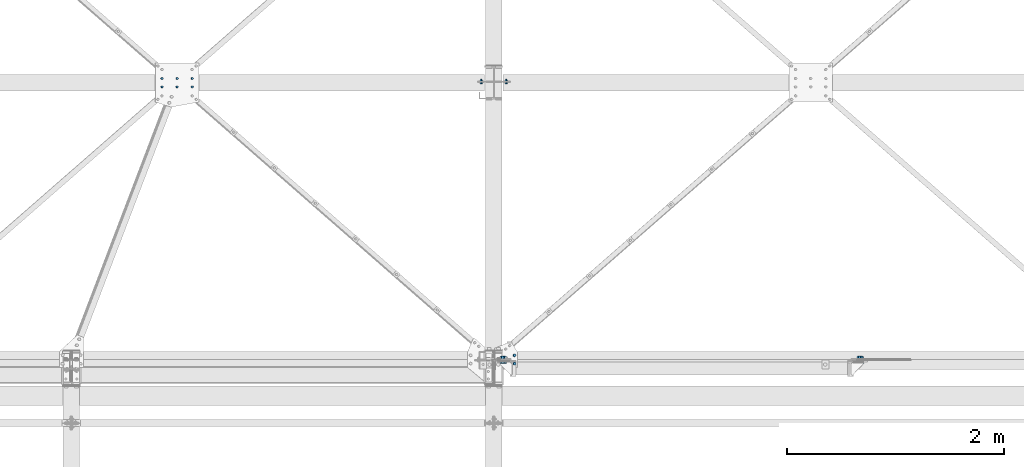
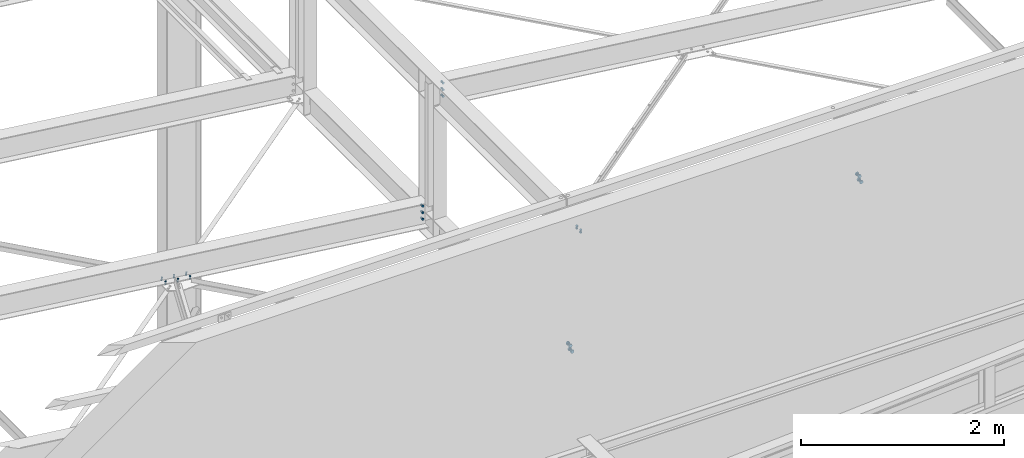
# One storey, part 104 of 3134: 6 mechanical fasteners, 4 elements without a shape of their own.
"""IFC2X3 building model written with IfcOpenShell, lengths in millimetres."""

from ifc_helpers import new_model, si_unit, frame, origin_with_axes, place, context, subcontext, project, spatial, faceted_brep, source, transform, mapped, material, type_object, element, aggregate, save


model = new_model("IFC2X3")

# Units and contexts
model_context = context("Model", 3, precision=1e-05, world=origin_with_axes())
body_context = subcontext(model_context, "Body", "Model", "MODEL_VIEW")
ifc_project = project(units=[si_unit("LENGTHUNIT", "METRE", prefix="MILLI"), si_unit("AREAUNIT", "SQUARE_METRE"), si_unit("VOLUMEUNIT", "CUBIC_METRE"), si_unit("MASSUNIT", "GRAM", prefix="KILO"), si_unit("TIMEUNIT", "SECOND"), si_unit("PLANEANGLEUNIT", "RADIAN"), si_unit("SOLIDANGLEUNIT", "STERADIAN"), si_unit("THERMODYNAMICTEMPERATUREUNIT", "DEGREE_CELSIUS"), si_unit("LUMINOUSINTENSITYUNIT", "LUMEN")], contexts=[model_context])

# Site, building, storey
site_placement = place(None, origin_with_axes())
site = spatial("IfcSite", under=ifc_project, at=site_placement, CompositionType="ELEMENT")
building_placement = place(site_placement, origin_with_axes())
building = spatial("IfcBuilding", under=site, at=building_placement, Name="Undefined", CompositionType="ELEMENT")
storey_placement = place(building_placement, origin_with_axes())
storey = spatial("IfcBuildingStorey", under=building, at=storey_placement, Name="Undefined", CompositionType="ELEMENT", Elevation=0.0)

# Assembly, mechanical fastener
assembly_1_placement = place(storey_placement, origin_with_axes())
assembly_1 = element("IfcElementAssembly", 1, at=assembly_1_placement, inside=storey, Name="300", AssemblyPlace="NOTDEFINED", PredefinedType="RIGID_FRAME")
ifc_material = material(Name="8.8")
mechanical_fastener_type = type_object("IfcMechanicalFastenerType", Name="Bolt assembly")
shared_shape_1 = source(origin_with_axes(), body_context, "Body", "Brep", [
    faceted_brep([(13.856406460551, -13.0499999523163, 0.0), (6.92820323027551, -13.0499999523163, 12.0), (-6.92820323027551, -13.0499999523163, 12.0), (-13.856406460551, -13.0499999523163, 1.69692038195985e-15), (-6.92820323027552, -13.0499999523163, -12.0), (6.9282032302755, -13.0499999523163, -12.0), (6.9282032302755, -3.04999995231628, -12.0), (-6.92820323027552, -3.04999995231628, -12.0), (-13.856406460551, -3.04999995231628, 1.69692038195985e-15), (-6.92820323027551, -3.04999995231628, 12.0), (6.92820323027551, -3.04999995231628, 12.0), (13.856406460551, -3.04999995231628, 0.0), (8.0, -3.04999995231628, 0.0), (6.92820323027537, -3.04999995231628, 4.00000000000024), (3.99999999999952, -3.04999995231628, 6.92820323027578), (-8.29068785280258e-13, -3.04999995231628, 8.0), (-4.00000000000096, -3.04999995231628, 6.92820323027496), (-6.9282032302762, -3.04999995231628, 3.99999999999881), (-8.0, -3.04999995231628, -1.65813757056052e-12), (-6.92820323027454, -3.04999995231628, -4.00000000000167), (-3.99999999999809, -3.04999995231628, -6.92820323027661), (2.47832457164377e-12, -3.04999995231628, -8.0), (4.00000000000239, -3.04999995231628, -6.92820323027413), (6.92820323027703, -3.04999995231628, -3.99999999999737), (6.92820323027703, 31.9500000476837, -3.99999999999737), (4.00000000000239, 31.9500000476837, -6.92820323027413), (2.47832457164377e-12, 31.9500000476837, -8.0), (-3.99999999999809, 31.9500000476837, -6.92820323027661), (-6.92820323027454, 31.9500000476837, -4.00000000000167), (-8.0, 31.9500000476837, -1.65813757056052e-12), (-6.9282032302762, 31.9500000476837, 3.99999999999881), (-4.00000000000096, 31.9500000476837, 6.92820323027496), (-8.29068785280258e-13, 31.9500000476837, 8.0), (3.99999999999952, 31.9500000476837, 6.92820323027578), (6.92820323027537, 31.9500000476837, 4.00000000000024), (8.0, 31.9500000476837, 0.0), (13.856406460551, 13.0500000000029, 0.0), (6.92820323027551, 13.0500000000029, 12.0), (-6.92820323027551, 13.0500000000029, 12.0), (-13.856406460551, 13.0500000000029, 1.69692038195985e-15), (-6.92820323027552, 13.0500000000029, -12.0), (6.9282032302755, 13.0500000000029, -12.0), (6.9282032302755, 26.0500000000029, -12.0), (-6.92820323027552, 26.0500000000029, -12.0), (-13.856406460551, 26.0500000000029, 1.69692038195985e-15), (-6.92820323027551, 26.0500000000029, 12.0), (6.92820323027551, 26.0500000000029, 12.0), (13.856406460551, 26.0500000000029, 0.0)], [[[0, 1, 2, 3, 4, 5]], [[6, 7, 8, 9, 10, 11]], [[0, 11, 10, 1]], [[1, 10, 9, 2]], [[2, 9, 8, 3]], [[3, 8, 7, 4]], [[4, 7, 6, 5]], [[5, 6, 11, 0]], [[12, 13, 14, 15, 16, 17, 18, 19, 20, 21, 22, 23]], [[24, 25, 26, 27, 28, 29, 30, 31, 32, 33, 34, 35]], [[12, 35, 34, 13]], [[13, 34, 33, 14]], [[14, 33, 32, 15]], [[15, 32, 31, 16]], [[16, 31, 30, 17]], [[17, 30, 29, 18]], [[18, 29, 28, 19]], [[19, 28, 27, 20]], [[20, 27, 26, 21]], [[21, 26, 25, 22]], [[22, 25, 24, 23]], [[23, 24, 35, 12]], [[36, 37, 38, 39, 40, 41]], [[42, 43, 44, 45, 46, 47]], [[36, 47, 46, 37]], [[37, 46, 45, 38]], [[38, 45, 44, 39]], [[39, 44, 43, 40]], [[40, 43, 42, 41]], [[41, 42, 47, 36]]]),
    faceted_brep([(9.0, 2.95000000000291, 0.0), (7.79422863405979, 2.95000000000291, 4.50000000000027), (4.49999999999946, 2.95000000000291, 7.79422863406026), (-9.3270238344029e-13, 2.95000000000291, 9.0), (-4.50000000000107, 2.95000000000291, 7.79422863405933), (-7.79422863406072, 2.95000000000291, 4.49999999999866), (-9.0, 2.95000000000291, -1.86540476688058e-12), (-7.79422863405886, 2.95000000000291, -4.50000000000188), (-4.49999999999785, 2.95000000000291, -7.79422863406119), (2.78811514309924e-12, 2.95000000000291, -9.0), (4.50000000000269, 2.95000000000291, -7.7942286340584), (7.79422863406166, 2.95000000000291, -4.49999999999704), (7.79422863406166, 13.0500000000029, -4.49999999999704), (4.50000000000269, 13.0500000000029, -7.7942286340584), (2.78811514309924e-12, 13.0500000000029, -9.0), (-4.49999999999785, 13.0500000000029, -7.79422863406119), (-7.79422863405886, 13.0500000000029, -4.50000000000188), (-9.0, 13.0500000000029, -1.86540476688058e-12), (-7.79422863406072, 13.0500000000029, 4.49999999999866), (-4.50000000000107, 13.0500000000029, 7.79422863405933), (-9.3270238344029e-13, 13.0500000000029, 9.0), (4.49999999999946, 13.0500000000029, 7.79422863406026), (7.79422863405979, 13.0500000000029, 4.50000000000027), (9.0, 13.0500000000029, 0.0), (9.0, -2.94999995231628, 0.0), (7.79422863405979, -2.94999995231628, 4.50000000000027), (4.49999999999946, -2.94999995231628, 7.79422863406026), (-9.3270238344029e-13, -2.94999995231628, 9.0), (-4.50000000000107, -2.94999995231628, 7.79422863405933), (-7.79422863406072, -2.94999995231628, 4.49999999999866), (-9.0, -2.94999995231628, -1.86540476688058e-12), (-7.79422863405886, -2.94999995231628, -4.50000000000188), (-4.49999999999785, -2.94999995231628, -7.79422863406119), (2.78811514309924e-12, -2.94999995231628, -9.0), (4.50000000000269, -2.94999995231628, -7.7942286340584), (7.79422863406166, -2.94999995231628, -4.49999999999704), (7.79422863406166, 3.14999995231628, -4.49999999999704), (4.50000000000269, 3.14999995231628, -7.7942286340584), (2.78811514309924e-12, 3.14999995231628, -9.0), (-4.49999999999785, 3.14999995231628, -7.79422863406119), (-7.79422863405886, 3.14999995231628, -4.50000000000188), (-9.0, 3.14999995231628, -1.86540476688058e-12), (-7.79422863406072, 3.14999995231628, 4.49999999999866), (-4.50000000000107, 3.14999995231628, 7.79422863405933), (-9.3270238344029e-13, 3.14999995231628, 9.0), (4.49999999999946, 3.14999995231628, 7.79422863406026), (7.79422863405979, 3.14999995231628, 4.50000000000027), (9.0, 3.14999995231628, 0.0)], [[[0, 1, 2, 3, 4, 5, 6, 7, 8, 9, 10, 11]], [[12, 13, 14, 15, 16, 17, 18, 19, 20, 21, 22, 23]], [[0, 23, 22, 1]], [[1, 22, 21, 2]], [[2, 21, 20, 3]], [[3, 20, 19, 4]], [[4, 19, 18, 5]], [[5, 18, 17, 6]], [[6, 17, 16, 7]], [[7, 16, 15, 8]], [[8, 15, 14, 9]], [[9, 14, 13, 10]], [[10, 13, 12, 11]], [[11, 12, 23, 0]], [[24, 25, 26, 27, 28, 29, 30, 31, 32, 33, 34, 35]], [[36, 37, 38, 39, 40, 41, 42, 43, 44, 45, 46, 47]], [[24, 47, 46, 25]], [[25, 46, 45, 26]], [[26, 45, 44, 27]], [[27, 44, 43, 28]], [[28, 43, 42, 29]], [[29, 42, 41, 30]], [[30, 41, 40, 31]], [[31, 40, 39, 32]], [[32, 39, 38, 33]], [[33, 38, 37, 34]], [[34, 37, 36, 35]], [[35, 36, 47, 24]]]),
])
mechanical_fastener_1_placement = place(assembly_1_placement, frame((32640.0, 2550.0, 5735.35014950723), z_axis=(1.0, 0.0, 0.0), x_axis=(0.0, 0.0, -1.0)))
mechanical_fastener_1 = element("IfcMechanicalFastener", 2, at=mechanical_fastener_1_placement, type_object=mechanical_fastener_type, material=ifc_material, Name="Bolt assembly", NominalDiameter=16.0, NominalLength=35.0, context=body_context, shape_type="MappedRepresentation", body=[
    mapped(shared_shape_1, transform((0.0, 0.0, 0.0))),
    mapped(shared_shape_1, transform((80.0, 0.0, 0.0))),
    mapped(shared_shape_1, transform((160.0, 0.0, 0.0))),
])
aggregate(assembly_1, [mechanical_fastener_1])

# Assembly, mechanical fasteners
assembly_2_placement = place(storey_placement, origin_with_axes())
assembly_2 = element("IfcElementAssembly", 3, at=assembly_2_placement, inside=storey, Name="300", AssemblyPlace="NOTDEFINED", PredefinedType="RIGID_FRAME")
mechanical_fastener_2_placement = place(assembly_2_placement, frame((32410.0, 2550.0, 4337.44269270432), z_axis=(1.0, 0.0, 0.0), x_axis=(0.0, 0.0, -1.0)))
mechanical_fastener_2 = element("IfcMechanicalFastener", 4, at=mechanical_fastener_2_placement, type_object=mechanical_fastener_type, material=ifc_material, Name="Bolt assembly", NominalDiameter=16.0, NominalLength=35.0, context=body_context, shape_type="MappedRepresentation", body=[
    mapped(shared_shape_1, transform((0.0, 0.0, 0.0))),
    mapped(shared_shape_1, transform((80.0, 0.0, 0.0))),
    mapped(shared_shape_1, transform((160.0, 0.0, 0.0))),
])
shared_shape_2 = source(origin_with_axes(), body_context, "Body", "Brep", [
    faceted_brep([(10.9696551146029, -17.1999998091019, 0.0), (5.48482755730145, -17.1999998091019, 9.5), (-5.48482755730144, -17.1999998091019, 9.5), (-10.9696551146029, -17.1999998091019, 1.34339530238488e-15), (-5.48482755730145, -17.1999998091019, -9.5), (5.48482755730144, -17.1999998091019, -9.50000000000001), (5.48482755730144, -9.19999978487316, -9.50000000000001), (-5.48482755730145, -9.19999978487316, -9.5), (-10.9696551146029, -9.19999978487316, 1.34339530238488e-15), (-5.48482755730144, -9.19999978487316, 9.5), (5.48482755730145, -9.19999978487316, 9.5), (10.9696551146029, -9.19999978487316, 0.0), (6.0, -9.19999978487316, 0.0), (5.19615242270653, -9.19999978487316, 3.00000000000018), (2.99999999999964, -9.19999978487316, 5.19615242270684), (-6.21801588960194e-13, -9.19999978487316, 6.0), (-3.00000000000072, -9.19999978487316, 5.19615242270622), (-5.19615242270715, -9.19999978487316, 2.9999999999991), (-6.0, -9.19999978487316, -1.24360317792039e-12), (-5.19615242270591, -9.19999978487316, -3.00000000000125), (-2.99999999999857, -9.19999978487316, -5.19615242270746), (1.85874342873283e-12, -9.19999978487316, -6.0), (3.00000000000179, -9.19999978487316, -5.1961524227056), (5.19615242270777, -9.19999978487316, -2.99999999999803), (5.19615242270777, 25.8000002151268, -2.99999999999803), (3.00000000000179, 25.8000002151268, -5.1961524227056), (1.85874342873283e-12, 25.8000002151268, -6.0), (-2.99999999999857, 25.8000002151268, -5.19615242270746), (-5.19615242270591, 25.8000002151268, -3.00000000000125), (-6.0, 25.8000002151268, -1.24360317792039e-12), (-5.19615242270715, 25.8000002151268, 2.9999999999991), (-3.00000000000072, 25.8000002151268, 5.19615242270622), (-6.21801588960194e-13, 25.8000002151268, 6.0), (2.99999999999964, 25.8000002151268, 5.19615242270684), (5.19615242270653, 25.8000002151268, 3.00000000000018), (6.0, 25.8000002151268, 0.0), (10.9696551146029, 8.0, 0.0), (5.48482755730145, 8.0, 9.5), (-5.48482755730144, 8.0, 9.5), (-10.9696551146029, 8.0, 1.34339530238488e-15), (-5.48482755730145, 8.0, -9.5), (5.48482755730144, 8.0, -9.50000000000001), (5.48482755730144, 18.0, -9.50000000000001), (-5.48482755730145, 18.0, -9.5), (-10.9696551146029, 18.0, 1.34339530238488e-15), (-5.48482755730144, 18.0, 9.5), (5.48482755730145, 18.0, 9.5), (10.9696551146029, 18.0, 0.0)], [[[0, 1, 2, 3, 4, 5]], [[6, 7, 8, 9, 10, 11]], [[0, 11, 10, 1]], [[1, 10, 9, 2]], [[2, 9, 8, 3]], [[3, 8, 7, 4]], [[4, 7, 6, 5]], [[5, 6, 11, 0]], [[12, 13, 14, 15, 16, 17, 18, 19, 20, 21, 22, 23]], [[24, 25, 26, 27, 28, 29, 30, 31, 32, 33, 34, 35]], [[12, 35, 34, 13]], [[13, 34, 33, 14]], [[14, 33, 32, 15]], [[15, 32, 31, 16]], [[16, 31, 30, 17]], [[17, 30, 29, 18]], [[18, 29, 28, 19]], [[19, 28, 27, 20]], [[20, 27, 26, 21]], [[21, 26, 25, 22]], [[22, 25, 24, 23]], [[23, 24, 35, 12]], [[36, 37, 38, 39, 40, 41]], [[42, 43, 44, 45, 46, 47]], [[36, 47, 46, 37]], [[37, 46, 45, 38]], [[38, 45, 44, 39]], [[39, 44, 43, 40]], [[40, 43, 42, 41]], [[41, 42, 47, 36]]]),
    faceted_brep([(7.0, -0.1, 0.0), (6.06217782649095, -0.1, 3.50000000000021), (3.49999999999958, -0.1, 6.06217782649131), (-7.25435187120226e-13, -0.1, 7.0), (-3.50000000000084, -0.1, 6.06217782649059), (-6.06217782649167, -0.1, 3.49999999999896), (-7.0, -0.1, -1.45087037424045e-12), (-6.06217782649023, -0.1, -3.50000000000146), (-3.49999999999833, -0.1, -6.06217782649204), (2.1685340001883e-12, -0.1, -7.0), (3.50000000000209, -0.1, -6.06217782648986), (6.0621778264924, -0.1, -3.4999999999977), (6.0621778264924, 8.0000000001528, -3.4999999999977), (3.50000000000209, 8.0000000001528, -6.06217782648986), (2.1685340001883e-12, 8.0000000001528, -7.0), (-3.49999999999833, 8.0000000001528, -6.06217782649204), (-6.06217782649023, 8.0000000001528, -3.50000000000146), (-7.0, 8.0000000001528, -1.45087037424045e-12), (-6.06217782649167, 8.0000000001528, 3.49999999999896), (-3.50000000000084, 8.0000000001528, 6.06217782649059), (-7.25435187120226e-13, 8.0000000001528, 7.0), (3.49999999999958, 8.0000000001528, 6.06217782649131), (6.06217782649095, 8.0000000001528, 3.50000000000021), (7.0, 8.0000000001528, 0.0), (7.0, -9.09999980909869, 0.0), (6.06217782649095, -9.09999980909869, 3.50000000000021), (3.49999999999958, -9.09999980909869, 6.06217782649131), (-7.25435187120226e-13, -9.09999980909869, 7.0), (-3.50000000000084, -9.09999980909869, 6.06217782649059), (-6.06217782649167, -9.09999980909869, 3.49999999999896), (-7.0, -9.09999980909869, -1.45087037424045e-12), (-6.06217782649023, -9.09999980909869, -3.50000000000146), (-3.49999999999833, -9.09999980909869, -6.06217782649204), (2.1685340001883e-12, -9.09999980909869, -7.0), (3.50000000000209, -9.09999980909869, -6.06217782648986), (6.0621778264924, -9.09999980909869, -3.4999999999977), (6.0621778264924, 0.0999999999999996, -3.4999999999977), (3.50000000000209, 0.0999999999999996, -6.06217782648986), (2.1685340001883e-12, 0.0999999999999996, -7.0), (-3.49999999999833, 0.0999999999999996, -6.06217782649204), (-6.06217782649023, 0.0999999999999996, -3.50000000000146), (-7.0, 0.0999999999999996, -1.45087037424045e-12), (-6.06217782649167, 0.0999999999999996, 3.49999999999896), (-3.50000000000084, 0.0999999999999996, 6.06217782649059), (-7.25435187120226e-13, 0.0999999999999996, 7.0), (3.49999999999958, 0.0999999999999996, 6.06217782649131), (6.06217782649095, 0.0999999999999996, 3.50000000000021), (7.0, 0.0999999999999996, 0.0)], [[[0, 1, 2, 3, 4, 5, 6, 7, 8, 9, 10, 11]], [[12, 13, 14, 15, 16, 17, 18, 19, 20, 21, 22, 23]], [[0, 23, 22, 1]], [[1, 22, 21, 2]], [[2, 21, 20, 3]], [[3, 20, 19, 4]], [[4, 19, 18, 5]], [[5, 18, 17, 6]], [[6, 17, 16, 7]], [[7, 16, 15, 8]], [[8, 15, 14, 9]], [[9, 14, 13, 10]], [[10, 13, 12, 11]], [[11, 12, 23, 0]], [[24, 25, 26, 27, 28, 29, 30, 31, 32, 33, 34, 35]], [[36, 37, 38, 39, 40, 41, 42, 43, 44, 45, 46, 47]], [[24, 47, 46, 25]], [[25, 46, 45, 26]], [[26, 45, 44, 27]], [[27, 44, 43, 28]], [[28, 43, 42, 29]], [[29, 42, 41, 30]], [[30, 41, 40, 31]], [[31, 40, 39, 32]], [[32, 39, 38, 33]], [[33, 38, 37, 34]], [[34, 37, 36, 35]], [[35, 36, 47, 24]]]),
])
mechanical_fastener_3_placement = place(assembly_2_placement, frame((29745.7000422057, 2550.0, 4433.26021979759), z_axis=(0.0, -1.0, 0.0), x_axis=(-0.992623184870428, 0.0, 0.121240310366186)))
mechanical_fastener_3 = element("IfcMechanicalFastener", 5, at=mechanical_fastener_3_placement, type_object=mechanical_fastener_type, material=ifc_material, Name="Bolt assembly", NominalDiameter=12.0, NominalLength=35.0, context=body_context, shape_type="MappedRepresentation", body=[
    mapped(shared_shape_2, transform((0.0, 0.0, -38.0))),
    mapped(shared_shape_2, transform((140.000000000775, 5.85714587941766e-10, -38.0))),
    mapped(shared_shape_2, transform((279.999999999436, -4.74756234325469e-10, -38.0))),
    mapped(shared_shape_2, transform((0.0, 0.0, 38.0))),
    mapped(shared_shape_2, transform((140.000000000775, 5.85714587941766e-10, 38.0))),
    mapped(shared_shape_2, transform((279.999999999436, -4.74756234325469e-10, 38.0))),
])
aggregate(assembly_2, [mechanical_fastener_3, mechanical_fastener_2])

# Assembly, mechanical fastener
assembly_3_placement = place(storey_placement, origin_with_axes())
assembly_3 = element("IfcElementAssembly", 6, at=assembly_3_placement, inside=storey, Name="300", AssemblyPlace="NOTDEFINED", PredefinedType="RIGID_FRAME")
shared_shape_3 = source(origin_with_axes(), body_context, "Body", "Brep", [
    faceted_brep([(13.856406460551, -19.1017951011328, 0.0), (6.92820323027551, -19.1017951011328, 12.0), (-6.92820323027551, -19.1017951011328, 12.0), (-13.856406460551, -19.1017951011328, 1.69692038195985e-15), (-6.92820323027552, -19.1017951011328, -12.0), (6.9282032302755, -19.1017951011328, -12.0), (6.9282032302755, -9.10179510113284, -12.0), (-6.92820323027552, -9.10179510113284, -12.0), (-13.856406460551, -9.10179510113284, 1.69692038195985e-15), (-6.92820323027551, -9.10179510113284, 12.0), (6.92820323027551, -9.10179510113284, 12.0), (13.856406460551, -9.10179510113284, 0.0), (8.0, -9.10179510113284, 0.0), (6.92820323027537, -9.10179510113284, 4.00000000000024), (3.99999999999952, -9.10179510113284, 6.92820323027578), (-8.29068785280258e-13, -9.10179510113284, 8.0), (-4.00000000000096, -9.10179510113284, 6.92820323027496), (-6.9282032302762, -9.10179510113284, 3.99999999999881), (-8.0, -9.10179510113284, -1.65813757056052e-12), (-6.92820323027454, -9.10179510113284, -4.00000000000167), (-3.99999999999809, -9.10179510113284, -6.92820323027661), (2.47832457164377e-12, -9.10179510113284, -8.0), (4.00000000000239, -9.10179510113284, -6.92820323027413), (6.92820323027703, -9.10179510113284, -3.99999999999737), (6.92820323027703, 25.8982048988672, -3.99999999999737), (4.00000000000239, 25.8982048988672, -6.92820323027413), (2.47832457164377e-12, 25.8982048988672, -8.0), (-3.99999999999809, 25.8982048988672, -6.92820323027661), (-6.92820323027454, 25.8982048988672, -4.00000000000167), (-8.0, 25.8982048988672, -1.65813757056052e-12), (-6.9282032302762, 25.8982048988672, 3.99999999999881), (-4.00000000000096, 25.8982048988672, 6.92820323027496), (-8.29068785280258e-13, 25.8982048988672, 8.0), (3.99999999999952, 25.8982048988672, 6.92820323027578), (6.92820323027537, 25.8982048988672, 4.00000000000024), (8.0, 25.8982048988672, 0.0), (13.856406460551, 8.09821488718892, 0.0), (6.92820323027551, 8.09821488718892, 12.0), (-6.92820323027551, 8.09821488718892, 12.0), (-13.856406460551, 8.09821488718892, 1.69692038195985e-15), (-6.92820323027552, 8.09821488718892, -12.0), (6.9282032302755, 8.09821488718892, -12.0), (6.9282032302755, 21.0982148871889, -12.0), (-6.92820323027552, 21.0982148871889, -12.0), (-13.856406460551, 21.0982148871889, 1.69692038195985e-15), (-6.92820323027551, 21.0982148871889, 12.0), (6.92820323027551, 21.0982148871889, 12.0), (13.856406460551, 21.0982148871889, 0.0)], [[[0, 1, 2, 3, 4, 5]], [[6, 7, 8, 9, 10, 11]], [[0, 11, 10, 1]], [[1, 10, 9, 2]], [[2, 9, 8, 3]], [[3, 8, 7, 4]], [[4, 7, 6, 5]], [[5, 6, 11, 0]], [[12, 13, 14, 15, 16, 17, 18, 19, 20, 21, 22, 23]], [[24, 25, 26, 27, 28, 29, 30, 31, 32, 33, 34, 35]], [[12, 35, 34, 13]], [[13, 34, 33, 14]], [[14, 33, 32, 15]], [[15, 32, 31, 16]], [[16, 31, 30, 17]], [[17, 30, 29, 18]], [[18, 29, 28, 19]], [[19, 28, 27, 20]], [[20, 27, 26, 21]], [[21, 26, 25, 22]], [[22, 25, 24, 23]], [[23, 24, 35, 12]], [[36, 37, 38, 39, 40, 41]], [[42, 43, 44, 45, 46, 47]], [[36, 47, 46, 37]], [[37, 46, 45, 38]], [[38, 45, 44, 39]], [[39, 44, 43, 40]], [[40, 43, 42, 41]], [[41, 42, 47, 36]]]),
    faceted_brep([(9.0, -0.00178511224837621, 0.0), (7.79422863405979, -0.00178511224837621, 4.50000000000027), (4.49999999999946, -0.00178511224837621, 7.79422863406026), (-9.3270238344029e-13, -0.00178511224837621, 9.0), (-4.50000000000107, -0.00178511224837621, 7.79422863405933), (-7.79422863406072, -0.00178511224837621, 4.49999999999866), (-9.0, -0.00178511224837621, -1.86540476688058e-12), (-7.79422863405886, -0.00178511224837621, -4.50000000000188), (-4.49999999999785, -0.00178511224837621, -7.79422863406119), (2.78811514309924e-12, -0.00178511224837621, -9.0), (4.50000000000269, -0.00178511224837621, -7.7942286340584), (7.79422863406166, -0.00178511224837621, -4.49999999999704), (7.79422863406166, 8.09821488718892, -4.49999999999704), (4.50000000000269, 8.09821488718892, -7.7942286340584), (2.78811514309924e-12, 8.09821488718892, -9.0), (-4.49999999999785, 8.09821488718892, -7.79422863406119), (-7.79422863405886, 8.09821488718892, -4.50000000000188), (-9.0, 8.09821488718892, -1.86540476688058e-12), (-7.79422863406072, 8.09821488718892, 4.49999999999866), (-4.50000000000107, 8.09821488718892, 7.79422863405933), (-9.3270238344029e-13, 8.09821488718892, 9.0), (4.49999999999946, 8.09821488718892, 7.79422863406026), (7.79422863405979, 8.09821488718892, 4.50000000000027), (9.0, 8.09821488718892, 0.0), (9.0, -9.00179510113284, 0.0), (7.79422863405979, -9.00179510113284, 4.50000000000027), (4.49999999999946, -9.00179510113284, 7.79422863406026), (-9.3270238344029e-13, -9.00179510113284, 9.0), (-4.50000000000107, -9.00179510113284, 7.79422863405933), (-7.79422863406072, -9.00179510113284, 4.49999999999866), (-9.0, -9.00179510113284, -1.86540476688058e-12), (-7.79422863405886, -9.00179510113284, -4.50000000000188), (-4.49999999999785, -9.00179510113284, -7.79422863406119), (2.78811514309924e-12, -9.00179510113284, -9.0), (4.50000000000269, -9.00179510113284, -7.7942286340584), (7.79422863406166, -9.00179510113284, -4.49999999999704), (7.79422863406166, 0.19820470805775, -4.49999999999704), (4.50000000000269, 0.19820470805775, -7.7942286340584), (2.78811514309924e-12, 0.19820470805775, -9.0), (-4.49999999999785, 0.19820470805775, -7.79422863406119), (-7.79422863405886, 0.19820470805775, -4.50000000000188), (-9.0, 0.19820470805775, -1.86540476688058e-12), (-7.79422863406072, 0.19820470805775, 4.49999999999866), (-4.50000000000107, 0.19820470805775, 7.79422863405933), (-9.3270238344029e-13, 0.19820470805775, 9.0), (4.49999999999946, 0.19820470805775, 7.79422863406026), (7.79422863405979, 0.19820470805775, 4.50000000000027), (9.0, 0.19820470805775, 0.0)], [[[0, 1, 2, 3, 4, 5, 6, 7, 8, 9, 10, 11]], [[12, 13, 14, 15, 16, 17, 18, 19, 20, 21, 22, 23]], [[0, 23, 22, 1]], [[1, 22, 21, 2]], [[2, 21, 20, 3]], [[3, 20, 19, 4]], [[4, 19, 18, 5]], [[5, 18, 17, 6]], [[6, 17, 16, 7]], [[7, 16, 15, 8]], [[8, 15, 14, 9]], [[9, 14, 13, 10]], [[10, 13, 12, 11]], [[11, 12, 23, 0]], [[24, 25, 26, 27, 28, 29, 30, 31, 32, 33, 34, 35]], [[36, 37, 38, 39, 40, 41, 42, 43, 44, 45, 46, 47]], [[24, 47, 46, 25]], [[25, 46, 45, 26]], [[26, 45, 44, 27]], [[27, 44, 43, 28]], [[28, 43, 42, 29]], [[29, 42, 41, 30]], [[30, 41, 40, 31]], [[31, 40, 39, 32]], [[32, 39, 38, 33]], [[33, 38, 37, 34]], [[34, 37, 36, 35]], [[35, 36, 47, 24]]]),
])
mechanical_fastener_4_placement = place(assembly_3_placement, frame((32715.0348162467, 37.9995130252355, 5496.68063423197), z_axis=(0.992623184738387, 1.63108538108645e-05, -0.12124031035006), x_axis=(1.62000016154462e-05, -0.999999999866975, -1.90000018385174e-06)))
mechanical_fastener_4 = element("IfcMechanicalFastener", 7, at=mechanical_fastener_4_placement, type_object=mechanical_fastener_type, material=ifc_material, Name="Bolt assembly", NominalDiameter=16.0, NominalLength=35.0, context=body_context, shape_type="MappedRepresentation", body=[
    mapped(shared_shape_3, transform((0.0, 0.0, 0.0))),
    mapped(shared_shape_3, transform((76.0, 0.0, 0.0))),
])

assembly_4_placement = place(storey_placement, origin_with_axes())
assembly_4 = element("IfcElementAssembly", 8, at=assembly_4_placement, inside=storey, Name="300", AssemblyPlace="NOTDEFINED", PredefinedType="RIGID_FRAME")
shared_shape_4 = source(origin_with_axes(), body_context, "Body", "Brep", [
    faceted_brep([(20.7846096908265, -37.5, 0.0), (10.3923048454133, -37.5, 18.0), (-10.3923048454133, -37.5, 18.0), (-20.7846096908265, -37.5, 2.54538057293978e-15), (-10.3923048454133, -37.5, -18.0), (10.3923048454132, -37.5, -18.0), (10.3923048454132, -22.5, -18.0), (-10.3923048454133, -22.5, -18.0), (-20.7846096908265, -22.5, 2.54538057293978e-15), (-10.3923048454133, -22.5, 18.0), (10.3923048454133, -22.5, 18.0), (20.7846096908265, -22.5, 0.0), (12.0, -22.5, 0.0), (10.3923048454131, -22.5, 6.00000000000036), (5.99999999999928, -22.5, 10.3923048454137), (-1.24360317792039e-12, -22.5, 12.0), (-6.00000000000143, -22.5, 10.3923048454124), (-10.3923048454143, -22.5, 5.99999999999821), (-12.0, -22.5, -2.48720635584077e-12), (-10.3923048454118, -22.5, -6.00000000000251), (-5.99999999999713, -22.5, -10.3923048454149), (3.71748685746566e-12, -22.5, -12.0), (6.00000000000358, -22.5, -10.3923048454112), (10.3923048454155, -22.5, -5.99999999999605), (10.3923048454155, 32.5, -5.99999999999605), (6.00000000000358, 32.5, -10.3923048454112), (3.71748685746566e-12, 32.5, -12.0), (-5.99999999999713, 32.5, -10.3923048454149), (-10.3923048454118, 32.5, -6.00000000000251), (-12.0, 32.5, -2.48720635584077e-12), (-10.3923048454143, 32.5, 5.99999999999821), (-6.00000000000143, 32.5, 10.3923048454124), (-1.24360317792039e-12, 32.5, 12.0), (5.99999999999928, 32.5, 10.3923048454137), (10.3923048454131, 32.5, 6.00000000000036), (12.0, 32.5, 0.0), (20.7846096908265, 7.5, 0.0), (10.3923048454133, 7.5, 18.0), (-10.3923048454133, 7.5, 18.0), (-20.7846096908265, 7.5, 2.54538057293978e-15), (-10.3923048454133, 7.5, -18.0), (10.3923048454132, 7.5, -18.0), (10.3923048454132, 26.5, -18.0), (-10.3923048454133, 26.5, -18.0), (-20.7846096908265, 26.5, 2.54538057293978e-15), (-10.3923048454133, 26.5, 18.0), (10.3923048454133, 26.5, 18.0), (20.7846096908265, 26.5, 0.0)], [[[0, 1, 2, 3, 4, 5]], [[6, 7, 8, 9, 10, 11]], [[0, 11, 10, 1]], [[1, 10, 9, 2]], [[2, 9, 8, 3]], [[3, 8, 7, 4]], [[4, 7, 6, 5]], [[5, 6, 11, 0]], [[12, 13, 14, 15, 16, 17, 18, 19, 20, 21, 22, 23]], [[24, 25, 26, 27, 28, 29, 30, 31, 32, 33, 34, 35]], [[12, 35, 34, 13]], [[13, 34, 33, 14]], [[14, 33, 32, 15]], [[15, 32, 31, 16]], [[16, 31, 30, 17]], [[17, 30, 29, 18]], [[18, 29, 28, 19]], [[19, 28, 27, 20]], [[20, 27, 26, 21]], [[21, 26, 25, 22]], [[22, 25, 24, 23]], [[23, 24, 35, 12]], [[36, 37, 38, 39, 40, 41]], [[42, 43, 44, 45, 46, 47]], [[36, 47, 46, 37]], [[37, 46, 45, 38]], [[38, 45, 44, 39]], [[39, 44, 43, 40]], [[40, 43, 42, 41]], [[41, 42, 47, 36]]]),
    faceted_brep([(13.0, -22.4, 0.0), (11.2583302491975, -22.4, 6.50000000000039), (6.49999999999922, -22.4, 11.2583302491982), (-1.34723677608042e-12, -22.4, 13.0), (-6.50000000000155, -22.4, 11.2583302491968), (-11.2583302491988, -22.4, 6.49999999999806), (-13.0, -22.4, -2.69447355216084e-12), (-11.2583302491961, -22.4, -6.50000000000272), (-6.4999999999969, -22.4, -11.2583302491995), (4.02727742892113e-12, -22.4, -13.0), (6.50000000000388, -22.4, -11.2583302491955), (11.2583302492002, -22.4, -6.49999999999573), (11.2583302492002, -7.40000000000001, -6.49999999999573), (6.50000000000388, -7.40000000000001, -11.2583302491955), (4.02727742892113e-12, -7.40000000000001, -13.0), (-6.4999999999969, -7.40000000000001, -11.2583302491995), (-11.2583302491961, -7.40000000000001, -6.50000000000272), (-13.0, -7.40000000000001, -2.69447355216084e-12), (-11.2583302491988, -7.40000000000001, 6.49999999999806), (-6.50000000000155, -7.40000000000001, 11.2583302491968), (-1.34723677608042e-12, -7.40000000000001, 13.0), (6.49999999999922, -7.40000000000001, 11.2583302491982), (11.2583302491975, -7.40000000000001, 6.50000000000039), (13.0, -7.40000000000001, 0.0), (13.0, -7.6, 0.0), (11.2583302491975, -7.6, 6.50000000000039), (6.49999999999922, -7.6, 11.2583302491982), (-1.34723677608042e-12, -7.6, 13.0), (-6.50000000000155, -7.6, 11.2583302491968), (-11.2583302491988, -7.6, 6.49999999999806), (-13.0, -7.6, -2.69447355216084e-12), (-11.2583302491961, -7.6, -6.50000000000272), (-6.4999999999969, -7.6, -11.2583302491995), (4.02727742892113e-12, -7.6, -13.0), (6.50000000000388, -7.6, -11.2583302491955), (11.2583302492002, -7.6, -6.49999999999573), (11.2583302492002, 7.5, -6.49999999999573), (6.50000000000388, 7.5, -11.2583302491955), (4.02727742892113e-12, 7.5, -13.0), (-6.4999999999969, 7.5, -11.2583302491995), (-11.2583302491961, 7.5, -6.50000000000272), (-13.0, 7.5, -2.69447355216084e-12), (-11.2583302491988, 7.5, 6.49999999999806), (-6.50000000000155, 7.5, 11.2583302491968), (-1.34723677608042e-12, 7.5, 13.0), (6.49999999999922, 7.5, 11.2583302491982), (11.2583302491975, 7.5, 6.50000000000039), (13.0, 7.5, 0.0)], [[[0, 1, 2, 3, 4, 5, 6, 7, 8, 9, 10, 11]], [[12, 13, 14, 15, 16, 17, 18, 19, 20, 21, 22, 23]], [[0, 23, 22, 1]], [[1, 22, 21, 2]], [[2, 21, 20, 3]], [[3, 20, 19, 4]], [[4, 19, 18, 5]], [[5, 18, 17, 6]], [[6, 17, 16, 7]], [[7, 16, 15, 8]], [[8, 15, 14, 9]], [[9, 14, 13, 10]], [[10, 13, 12, 11]], [[11, 12, 23, 0]], [[24, 25, 26, 27, 28, 29, 30, 31, 32, 33, 34, 35]], [[36, 37, 38, 39, 40, 41, 42, 43, 44, 45, 46, 47]], [[24, 47, 46, 25]], [[25, 46, 45, 26]], [[26, 45, 44, 27]], [[27, 44, 43, 28]], [[28, 43, 42, 29]], [[29, 42, 41, 30]], [[30, 41, 40, 31]], [[31, 40, 39, 32]], [[32, 39, 38, 33]], [[33, 38, 37, 34]], [[34, 37, 36, 35]], [[35, 36, 47, 24]]]),
])
mechanical_fastener_5_placement = place(assembly_4_placement, frame((32601.7262597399, 0.0, 4151.87311733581), z_axis=(0.965573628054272, 0.0, 0.260129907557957), x_axis=(0.260129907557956, 0.0, -0.965573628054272)))
mechanical_fastener_5 = element("IfcMechanicalFastener", 9, at=mechanical_fastener_5_placement, type_object=mechanical_fastener_type, material=ifc_material, Name="Bolt assembly", NominalDiameter=24.0, NominalLength=55.0, context=body_context, shape_type="MappedRepresentation", body=[
    mapped(shared_shape_4, transform((0.0, 0.0, 0.0))),
    mapped(shared_shape_4, transform((80.0, 0.0, 0.0))),
])
aggregate(assembly_4, [mechanical_fastener_5])

# Mechanical fastener
mechanical_fastener_6_placement = place(assembly_3_placement, frame((35889.1042587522, 0.0, 5037.52175680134), z_axis=(0.965571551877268, 0.0, 0.26013761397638), x_axis=(0.260137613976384, 0.0, -0.965571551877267)))
mechanical_fastener_6 = element("IfcMechanicalFastener", 10, at=mechanical_fastener_6_placement, type_object=mechanical_fastener_type, material=ifc_material, Name="Bolt assembly", NominalDiameter=24.0, NominalLength=55.0, context=body_context, shape_type="MappedRepresentation", body=[
    mapped(shared_shape_4, transform((0.0, 0.0, 0.0))),
    mapped(shared_shape_4, transform((80.0, 0.0, 0.0))),
])

aggregate(assembly_3, [mechanical_fastener_4, mechanical_fastener_6])

save(model, "model.ifc")
